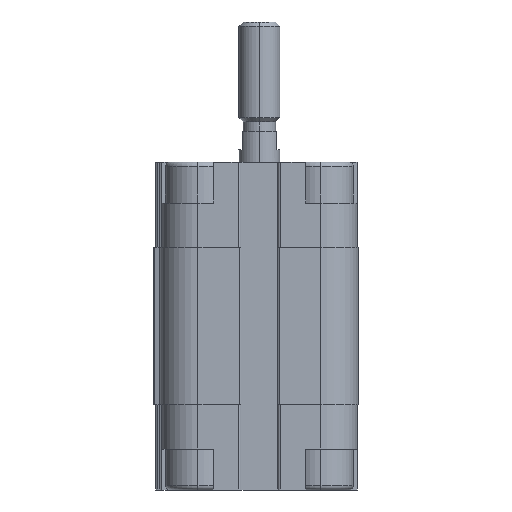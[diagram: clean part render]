
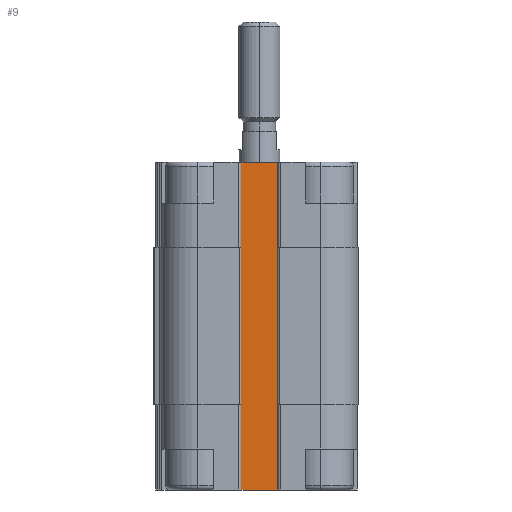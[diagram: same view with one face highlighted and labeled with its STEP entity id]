
A CAD part, left-side view. The second image highlights one B-rep face of the part: STEP entity #9.
In plain terms, the highlighted planar face has unit normal (-1, 0, 0).
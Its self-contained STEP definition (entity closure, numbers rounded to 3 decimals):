
#9 = ADVANCED_FACE ( 'NONE', ( #12754 ), #14316, .T. ) ;
#22 = EDGE_CURVE ( 'NONE', #12969, #7330, #15376, .T. ) ;
#508 = EDGE_CURVE ( 'NONE', #13291, #15165, #709, .T. ) ;
#560 = LINE ( 'NONE', #13889, #5358 ) ;
#594 = EDGE_CURVE ( 'NONE', #2976, #7330, #13080, .T. ) ;
#629 = CARTESIAN_POINT ( 'NONE',  ( -9.5, 3., -35.5 ) ) ;
#709 = LINE ( 'NONE', #16758, #7553 ) ;
#968 = CARTESIAN_POINT ( 'NONE',  ( -9.5, -3., 0. ) ) ;
#1019 = CARTESIAN_POINT ( 'NONE',  ( -9.5, 3.2, -35.5 ) ) ;
#1418 = EDGE_CURVE ( 'NONE', #7616, #4964, #14341, .T. ) ;
#1461 = CARTESIAN_POINT ( 'NONE',  ( -9.5, 3.2, -35.5 ) ) ;
#1656 = EDGE_CURVE ( 'NONE', #13362, #8730, #15118, .T. ) ;
#1717 = DIRECTION ( 'NONE',  ( 0., 0., 1. ) ) ;
#1836 = ORIENTED_EDGE ( 'NONE', *, *, #13860, .T. ) ;
#2131 = CARTESIAN_POINT ( 'NONE',  ( -9.5, 3., -48. ) ) ;
#2311 = DIRECTION ( 'NONE',  ( 0., -1., 0. ) ) ;
#2501 = ORIENTED_EDGE ( 'NONE', *, *, #16606, .F. ) ;
#2629 = LINE ( 'NONE', #5178, #9608 ) ;
#2644 = CARTESIAN_POINT ( 'NONE',  ( -9.5, 3., -48. ) ) ;
#2976 = VERTEX_POINT ( 'NONE', #13023 ) ;
#3131 = LINE ( 'NONE', #1461, #5318 ) ;
#3175 = CARTESIAN_POINT ( 'NONE',  ( -9.5, -3.2, -35.5 ) ) ;
#3333 = VECTOR ( 'NONE', #5353, 1000. ) ;
#3356 = ORIENTED_EDGE ( 'NONE', *, *, #9042, .T. ) ;
#3387 = ORIENTED_EDGE ( 'NONE', *, *, #14603, .F. ) ;
#3738 = VECTOR ( 'NONE', #7322, 1000. ) ;
#3898 = ORIENTED_EDGE ( 'NONE', *, *, #22, .T. ) ;
#4790 = VECTOR ( 'NONE', #12332, 1000. ) ;
#4964 = VERTEX_POINT ( 'NONE', #10434 ) ;
#5009 = ORIENTED_EDGE ( 'NONE', *, *, #16717, .F. ) ;
#5178 = CARTESIAN_POINT ( 'NONE',  ( -9.5, -3., -12.5 ) ) ;
#5179 = VECTOR ( 'NONE', #11608, 1000. ) ;
#5318 = VECTOR ( 'NONE', #1717, 1000. ) ;
#5353 = DIRECTION ( 'NONE',  ( 0., 0., 1. ) ) ;
#5358 = VECTOR ( 'NONE', #13806, 1000. ) ;
#5595 = AXIS2_PLACEMENT_3D ( 'NONE', #8892, #6269, #15722 ) ;
#5650 = CARTESIAN_POINT ( 'NONE',  ( -9.5, -3.2, -12.5 ) ) ;
#6172 = EDGE_CURVE ( 'NONE', #13362, #15165, #2629, .T. ) ;
#6269 = DIRECTION ( 'NONE',  ( -1., 0., 0. ) ) ;
#6375 = DIRECTION ( 'NONE',  ( 0., -1., 0. ) ) ;
#6576 = CARTESIAN_POINT ( 'NONE',  ( -9.5, 3., -12.5 ) ) ;
#7032 = ORIENTED_EDGE ( 'NONE', *, *, #1656, .F. ) ;
#7109 = ORIENTED_EDGE ( 'NONE', *, *, #6172, .T. ) ;
#7322 = DIRECTION ( 'NONE',  ( 0., -1., 0. ) ) ;
#7330 = VERTEX_POINT ( 'NONE', #629 ) ;
#7553 = VECTOR ( 'NONE', #7644, 1000. ) ;
#7616 = VERTEX_POINT ( 'NONE', #13952 ) ;
#7644 = DIRECTION ( 'NONE',  ( 0., -1., 0. ) ) ;
#7743 = CARTESIAN_POINT ( 'NONE',  ( -9.5, -3., -48. ) ) ;
#7807 = CARTESIAN_POINT ( 'NONE',  ( -9.5, -3., -48. ) ) ;
#8172 = LINE ( 'NONE', #3175, #10614 ) ;
#8326 = VECTOR ( 'NONE', #6375, 1000. ) ;
#8730 = VERTEX_POINT ( 'NONE', #5650 ) ;
#8892 = CARTESIAN_POINT ( 'NONE',  ( -9.5, 3., -12.5 ) ) ;
#9022 = VERTEX_POINT ( 'NONE', #7743 ) ;
#9035 = LINE ( 'NONE', #7807, #3333 ) ;
#9042 = EDGE_CURVE ( 'NONE', #2976, #9022, #12830, .T. ) ;
#9295 = DIRECTION ( 'NONE',  ( 0., 0., 1. ) ) ;
#9445 = LINE ( 'NONE', #14782, #4790 ) ;
#9597 = CARTESIAN_POINT ( 'NONE',  ( -9.5, -3., -12.5 ) ) ;
#9608 = VECTOR ( 'NONE', #9295, 1000. ) ;
#9925 = DIRECTION ( 'NONE',  ( 0., 0., 1. ) ) ;
#10434 = CARTESIAN_POINT ( 'NONE',  ( -9.5, -3.2, -35.5 ) ) ;
#10562 = VERTEX_POINT ( 'NONE', #15606 ) ;
#10614 = VECTOR ( 'NONE', #9925, 1000. ) ;
#10834 = CARTESIAN_POINT ( 'NONE',  ( -9.5, 3., 0. ) ) ;
#10984 = ORIENTED_EDGE ( 'NONE', *, *, #1418, .T. ) ;
#11436 = CARTESIAN_POINT ( 'NONE',  ( -9.5, 3.2, -35.5 ) ) ;
#11608 = DIRECTION ( 'NONE',  ( 0., -1., 0. ) ) ;
#11885 = ORIENTED_EDGE ( 'NONE', *, *, #14150, .T. ) ;
#12029 = DIRECTION ( 'NONE',  ( 0., 0., 1. ) ) ;
#12332 = DIRECTION ( 'NONE',  ( 0., -1., 0. ) ) ;
#12754 = FACE_OUTER_BOUND ( 'NONE', #16635, .T. ) ;
#12830 = LINE ( 'NONE', #2131, #5179 ) ;
#12969 = VERTEX_POINT ( 'NONE', #14983 ) ;
#13023 = CARTESIAN_POINT ( 'NONE',  ( -9.5, 3., -48. ) ) ;
#13080 = LINE ( 'NONE', #2644, #16512 ) ;
#13289 = ORIENTED_EDGE ( 'NONE', *, *, #594, .F. ) ;
#13291 = VERTEX_POINT ( 'NONE', #10834 ) ;
#13362 = VERTEX_POINT ( 'NONE', #9597 ) ;
#13806 = DIRECTION ( 'NONE',  ( 0., 0., 1. ) ) ;
#13860 = EDGE_CURVE ( 'NONE', #4964, #8730, #8172, .T. ) ;
#13889 = CARTESIAN_POINT ( 'NONE',  ( -9.5, 3., -12.5 ) ) ;
#13896 = ORIENTED_EDGE ( 'NONE', *, *, #508, .F. ) ;
#13952 = CARTESIAN_POINT ( 'NONE',  ( -9.5, -3., -35.5 ) ) ;
#14150 = EDGE_CURVE ( 'NONE', #9022, #7616, #9035, .T. ) ;
#14316 = PLANE ( 'NONE',  #5595 ) ;
#14341 = LINE ( 'NONE', #1019, #8326 ) ;
#14603 = EDGE_CURVE ( 'NONE', #12969, #10562, #3131, .T. ) ;
#14782 = CARTESIAN_POINT ( 'NONE',  ( -9.5, 3.2, -12.5 ) ) ;
#14983 = CARTESIAN_POINT ( 'NONE',  ( -9.5, 3.2, -35.5 ) ) ;
#15118 = LINE ( 'NONE', #15208, #3738 ) ;
#15165 = VERTEX_POINT ( 'NONE', #968 ) ;
#15208 = CARTESIAN_POINT ( 'NONE',  ( -9.5, 9., -12.5 ) ) ;
#15376 = LINE ( 'NONE', #11436, #15655 ) ;
#15606 = CARTESIAN_POINT ( 'NONE',  ( -9.5, 3.2, -12.5 ) ) ;
#15655 = VECTOR ( 'NONE', #2311, 1000. ) ;
#15722 = DIRECTION ( 'NONE',  ( 0., -1., 0. ) ) ;
#16113 = VERTEX_POINT ( 'NONE', #6576 ) ;
#16512 = VECTOR ( 'NONE', #12029, 1000. ) ;
#16606 = EDGE_CURVE ( 'NONE', #10562, #16113, #9445, .T. ) ;
#16635 = EDGE_LOOP ( 'NONE', ( #13896, #5009, #2501, #3387, #3898, #13289, #3356, #11885, #10984, #1836, #7032, #7109 ) ) ;
#16717 = EDGE_CURVE ( 'NONE', #16113, #13291, #560, .T. ) ;
#16758 = CARTESIAN_POINT ( 'NONE',  ( -9.5, 3., 0. ) ) ;
